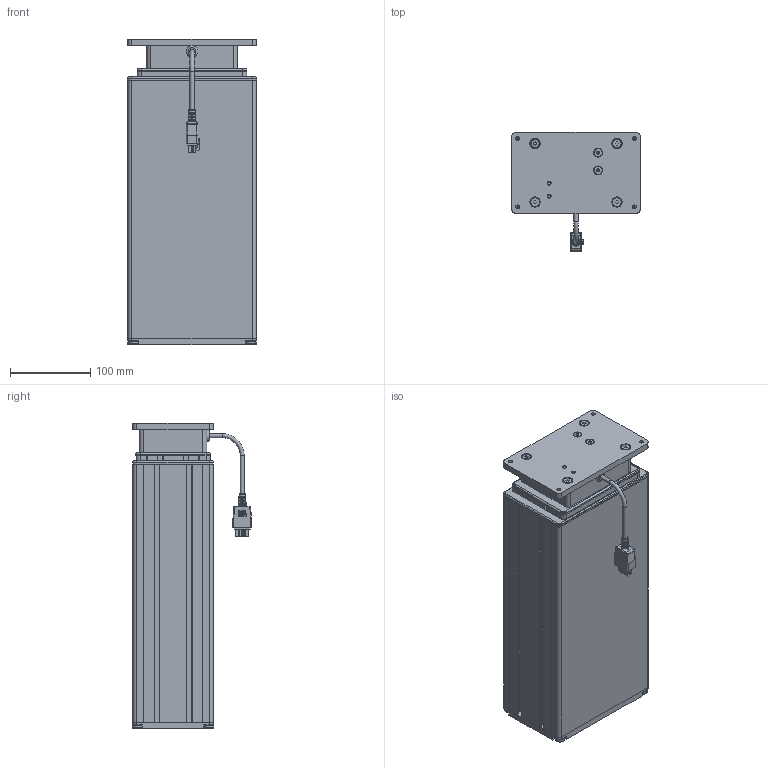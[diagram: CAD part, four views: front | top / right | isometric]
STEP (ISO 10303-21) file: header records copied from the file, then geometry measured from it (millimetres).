
FILE_DESCRIPTION(/* description */ ('Unknown'),/* implementation_level */ '2;1');
FILE_NAME(/* name */ '911.20002_00-eingefahren',/* time_stamp */ '2024-11-07T13:14:16+01:00',/* author */ ('Unknown'),/* organization */ ('Unknown'),/* preprocessor_version */ 'ST-DEVELOPER v18.104',/* originating_system */ 'Solid Edge',/* authorisation */ 'Unknown');
FILE_SCHEMA (('AUTOMOTIVE_DESIGN {1 0 10303 214 3 1 1}'));
Products named in the file (24): 911.20002; 126.00191; 119.00595; 119.00596; 119.00597; 119.00598; 119.00599; 127.00458; 126.00192; 126.00188; 127.00450; 124.00245; 128.00078; 128.00079; 142.00303; 142.00329; 142.00039; 110.00039_ausgefahren 7mm; 142.00154; 142.00349; 142.00043; Kabel Molex; 124.00129; 142.00304
Assembly tree (40 placements, depth 2):
  911.20002
    126.00191
    119.00595
    119.00596  x2
    119.00597  x2
    119.00598  x2
    119.00599  x2
    127.00458
    126.00192
    126.00188
    127.00450
    124.00245
    128.00078
    128.00079
    142.00303  x4
    142.00329  x2
    142.00039  x4
    110.00039_ausgefahren 7mm
    142.00154  x4
    142.00349  x3
    142.00043  x2
    Kabel Molex
    124.00129
    142.00304
Bounding box: 160.4 x 148.17 x 379.99 mm (x, y, z)
Volume: 3036990.1 mm3; surface area: 1507842.5 mm2
Topology: 40 solids, 76 shells, 3269 faces, 8509 edges, 5441 vertices
Faces by surface type: plane 1623, cylinder 1058, torus 307, cone 190, bspline 72, sphere 19
Full cylindrical faces by diameter (mm): 2 x18, 2.5 x1, 2.8 x6, 3.621 x4, 3.9 x4, 4 x30, 4.134 x9, 4.2 x12, 4.6 x2, 4.9 x1, 4.917 x6, 5 x14, 5.3 x3, 5.5 x8, 6 x12, 6.2 x5, 6.3 x2, 6.5 x4, 6.647 x4, 7 x2, 7.1 x1, 7.4 x4, 7.5 x1, 8 x3, 8.5 x1, 9 x1, 10 x10, 10.5 x1, 10.6 x2, 11 x2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
Entity records: 105725 total; most frequent: CARTESIAN_POINT 21686, DIRECTION 14900, ORIENTED_EDGE 14758, EDGE_CURVE 7379, AXIS2_PLACEMENT_3D 5570, VERTEX_POINT 4805, LINE 3760, VECTOR 3760
